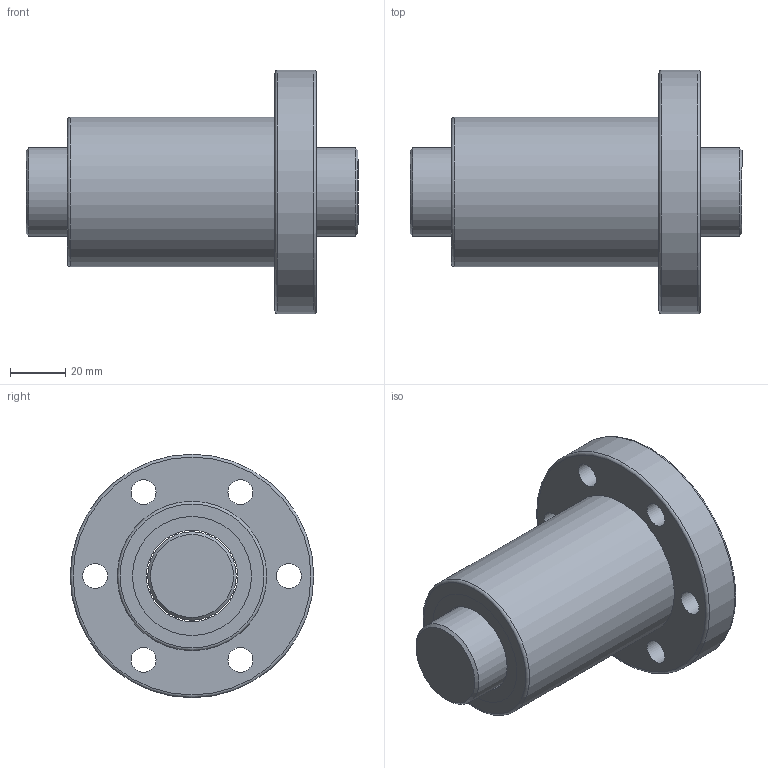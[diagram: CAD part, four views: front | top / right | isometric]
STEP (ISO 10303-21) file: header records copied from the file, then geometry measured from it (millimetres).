
FILE_DESCRIPTION(/* description */ (''),/* implementation_level */ '2;1');
FILE_NAME(/* name */ 'SFI3210',/* time_stamp */ '2007-10-26T11:44:34+08:00',/* author */ (''),/* organization */ (''),/* preprocessor_version */ 'ST-DEVELOPER v9',/* originating_system */ 'EDS PLM SOLUTIONS - UNIGRAPHICS NX 1.0',/* authorisation */ '');
FILE_SCHEMA (('CONFIG_CONTROL_DESIGN'));
Length unit declared in the file: millimetre
Products named in the file (1): FANNDA0400fb
Bounding box: 120 x 88 x 88 mm (x, y, z)
Volume: 270753 mm3; surface area: 58169.9 mm2
Topology: 4 solids, 4 shells, 44 faces, 82 edges, 55 vertices
Faces by surface type: cylinder 22, plane 17, torus 3, cone 2
Full cylindrical faces by diameter (mm): 9 x6, 14 x6, 32 x1, 33 x3, 43 x4, 54 x1, 88 x1
Entity records: 1050 total; most frequent: DIRECTION 188, CARTESIAN_POINT 143, EDGE_LOOP 98, ORIENTED_EDGE 98, AXIS2_PLACEMENT_3D 94, FACE_BOUND 79, VERTEX_POINT 49, EDGE_CURVE 49
